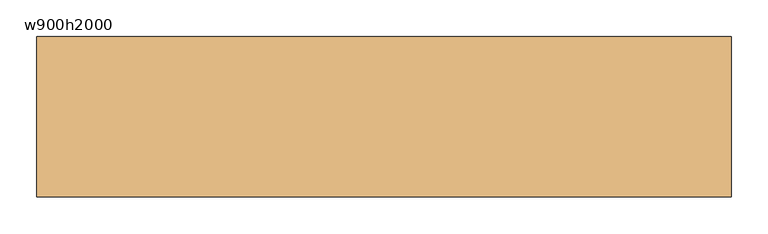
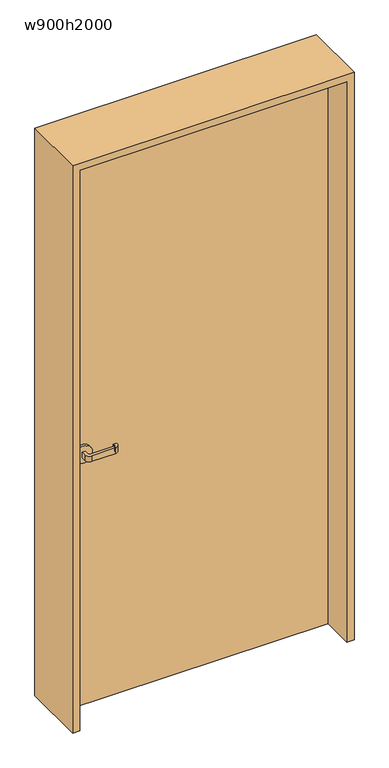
"""IFC4 building model written with IfcOpenShell, lengths in millimetres: door geometry, 片開き戸 : w900h2000."""

from ifc_helpers import new_model, si_unit, point, frame, frame_2d, origin, origin_with_axes, place, context, project, spatial, polyline, circle_curve, trimmed, segment, composite_curve, outline, extrude, source, transform, mapped, element, save


def w900h2000_8d150256(model_context):
    return source(origin(), model_context, "Body", "SweptSolid", [
        extrude(outline(polyline([(450.0, 40.0), (450.0, 0.0), (-450.0, 0.0), (-450.0, 40.0), (450.0, 40.0)])), origin_with_axes(), (0.0, 0.0, 1.0), 2000.0),
        extrude(outline(composite_curve([segment(polyline([(-375.0, 50.0), (-385.0, 50.0), (-385.0, 65.0)]), True, "CONTINUOUS"), segment(trimmed(circle_curve(frame_2d((-370.0, 65.0)), 15.0), [point((-385.0, 65.0))], [point((-370.0, 80.0))], False, "CARTESIAN"), True, "CONTINUOUS"), segment(polyline([(-370.0, 80.0), (-290.0, 80.0)]), True, "CONTINUOUS"), segment(trimmed(circle_curve(frame_2d((-290.0, 65.0)), 15.0), [point((-290.0, 80.0))], [point((-275.0, 65.0))], False, "CARTESIAN"), True, "CONTINUOUS"), segment(polyline([(-275.0, 65.0), (-275.0, 60.0), (-285.0, 60.0), (-285.0, 65.0)]), True, "CONTINUOUS"), segment(trimmed(circle_curve(frame_2d((-290.0, 65.0)), 5.0), [point((-285.0, 65.0))], [point((-290.0, 70.0))], True, "CARTESIAN"), True, "CONTINUOUS"), segment(polyline([(-290.0, 70.0), (-370.0, 70.0)]), True, "CONTINUOUS"), segment(trimmed(circle_curve(frame_2d((-370.0, 65.0)), 5.0), [point((-370.0, 70.0))], [point((-375.0, 65.0))], True, "CARTESIAN"), True, "CONTINUOUS"), segment(polyline([(-375.0, 65.0), (-375.0, 50.0)]), True, "CONTINUOUS")], self_intersect=False)), frame((0.0, 0.0, 890.0), z_axis=(0.0, 0.0, 1.0), x_axis=(1.0, 0.0, 0.0)), (0.0, 0.0, 1.0), 20.0),
        extrude(outline(composite_curve([segment(trimmed(circle_curve(frame_2d((900.0, -380.0)), 30.0), [point((900.0, -410.0))], [point((900.0, -350.0))], False, "CARTESIAN"), True, "CONTINUOUS"), segment(trimmed(circle_curve(frame_2d((900.0, -380.0)), 30.0), [point((900.0, -350.0))], [point((900.0, -410.0))], False, "CARTESIAN"), True, "CONTINUOUS")], self_intersect=False)), frame((0.0, 40.0, 0.0), z_axis=(0.0, 1.0, 0.0), x_axis=(0.0, 0.0, 1.0)), (0.0, 0.0, 1.0), 10.0),
        extrude(outline(composite_curve([segment(polyline([(-385.0, -10.0), (-375.0, -10.0), (-375.0, -25.0)]), True, "CONTINUOUS"), segment(trimmed(circle_curve(frame_2d((-370.0, -25.0)), 5.0), [point((-375.0, -25.0))], [point((-370.0, -30.0))], True, "CARTESIAN"), True, "CONTINUOUS"), segment(polyline([(-370.0, -30.0), (-290.0, -30.0)]), True, "CONTINUOUS"), segment(trimmed(circle_curve(frame_2d((-290.0, -25.0)), 5.0), [point((-290.0, -30.0))], [point((-285.0, -25.0))], True, "CARTESIAN"), True, "CONTINUOUS"), segment(polyline([(-285.0, -25.0), (-285.0, -20.0), (-275.0, -20.0), (-275.0, -25.0)]), True, "CONTINUOUS"), segment(trimmed(circle_curve(frame_2d((-290.0, -25.0)), 15.0), [point((-275.0, -25.0))], [point((-290.0, -40.0))], False, "CARTESIAN"), True, "CONTINUOUS"), segment(polyline([(-290.0, -40.0), (-370.0, -40.0)]), True, "CONTINUOUS"), segment(trimmed(circle_curve(frame_2d((-370.0, -25.0)), 15.0), [point((-370.0, -40.0))], [point((-385.0, -25.0))], False, "CARTESIAN"), True, "CONTINUOUS"), segment(polyline([(-385.0, -25.0), (-385.0, -10.0)]), True, "CONTINUOUS")], self_intersect=False)), frame((0.0, 0.0, 890.0), z_axis=(0.0, 0.0, 1.0), x_axis=(1.0, 0.0, 0.0)), (0.0, 0.0, 1.0), 20.0),
        extrude(outline(composite_curve([segment(trimmed(circle_curve(frame_2d((900.0, -380.0)), 30.0), [point((900.0, -410.0))], [point((900.0, -350.0))], False, "CARTESIAN"), True, "CONTINUOUS"), segment(trimmed(circle_curve(frame_2d((900.0, -380.0)), 30.0), [point((900.0, -350.0))], [point((900.0, -410.0))], False, "CARTESIAN"), True, "CONTINUOUS")], self_intersect=False)), frame((0.0, -10.0, 0.0), z_axis=(0.0, 1.0, 0.0), x_axis=(0.0, 0.0, 1.0)), (0.0, 0.0, 1.0), 10.0),
        extrude(outline(polyline([(0.0, -475.0), (0.0, -450.0), (2000.0, -450.0), (2000.0, 450.0), (0.0, 450.0), (0.0, 475.0), (2025.0, 475.0), (2025.0, -475.0), (0.0, -475.0)])), frame((0.0, -110.0, 0.0), z_axis=(0.0, 1.0, 0.0), x_axis=(0.0, 0.0, 1.0)), (0.0, 0.0, 1.0), 220.0),
    ])


if __name__ == "__main__":
    model = new_model("IFC4")
    model_context = context("Model", 3, world=origin())
    ifc_project = project(units=[si_unit("LENGTHUNIT", "METRE", prefix="MILLI")], contexts=[model_context])
    site = spatial("IfcSite", under=ifc_project)
    building = spatial("IfcBuilding", under=site)
    placement = place(None, origin())
    w900h2000_shape = w900h2000_8d150256(model_context)
    element("IfcDoor", 1, ObjectType="片開き戸 : w900h2000", at=placement, inside=building, context=model_context, shape_type="MappedRepresentation", body=[
        mapped(w900h2000_shape, transform((0.0, 0.0, 0.0), x_axis=(1.0, 0.0, 0.0), y_axis=(0.0, 1.0, 0.0), z_axis=(0.0, 0.0, 1.0))),
    ])
    save(model, "model.ifc")
